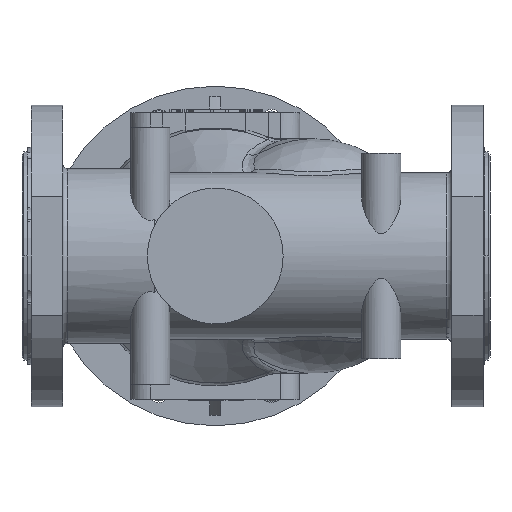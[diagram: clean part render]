
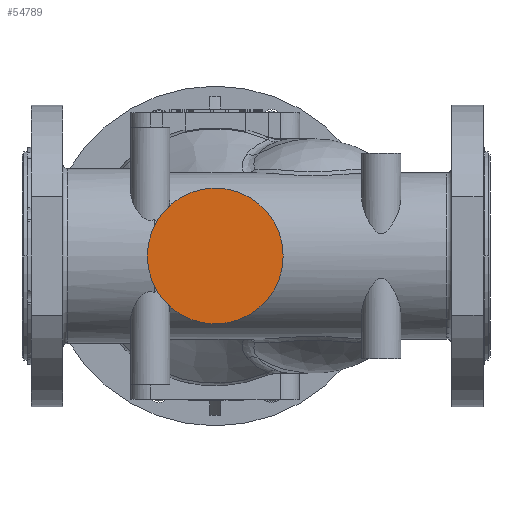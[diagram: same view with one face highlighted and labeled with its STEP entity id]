
A CAD part, front view. The second image highlights one B-rep face of the part: STEP entity #54789.
In plain terms, the highlighted planar face has unit normal (0, -1, 0).
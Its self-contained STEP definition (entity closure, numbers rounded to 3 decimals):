
#13021=CARTESIAN_POINT('',(0.,-90.,0.));
#13022=DIRECTION('',(0.,1.,0.));
#13023=DIRECTION('',(-1.,0.,0.));
#13024=AXIS2_PLACEMENT_3D('',#13021,#13022,#13023);
#13026=CARTESIAN_POINT('',(0.,-90.,0.));
#13027=DIRECTION('',(0.,-1.,0.));
#13028=DIRECTION('',(-1.,0.,0.));
#13029=AXIS2_PLACEMENT_3D('',#13026,#13027,#13028);
#33073=CARTESIAN_POINT('',(-45.,-90.,0.));
#33074=VERTEX_POINT('',#33073);
#33083=CARTESIAN_POINT('',(45.,-90.,0.));
#33084=VERTEX_POINT('',#33083);
#54780=CARTESIAN_POINT('',(0.,-90.,0.));
#54781=DIRECTION('',(0.,-1.,0.));
#54782=DIRECTION('',(-1.,0.,0.));
#54783=AXIS2_PLACEMENT_3D('',#54780,#54781,#54782);
#54784=PLANE('',#54783);
#54785=ORIENTED_EDGE('',*,*,#54775,.T.);
#54786=ORIENTED_EDGE('',*,*,#54759,.F.);
#54787=EDGE_LOOP('',(#54785,#54786));
#54788=FACE_OUTER_BOUND('',#54787,.F.);
#54789=ADVANCED_FACE('',(#54788),#54784,.T.);
#13025=CIRCLE('',#13024,45.);
#13030=CIRCLE('',#13029,45.);
#54759=EDGE_CURVE('',#33074,#33084,#13030,.T.);
#54775=EDGE_CURVE('',#33074,#33084,#13025,.T.);
